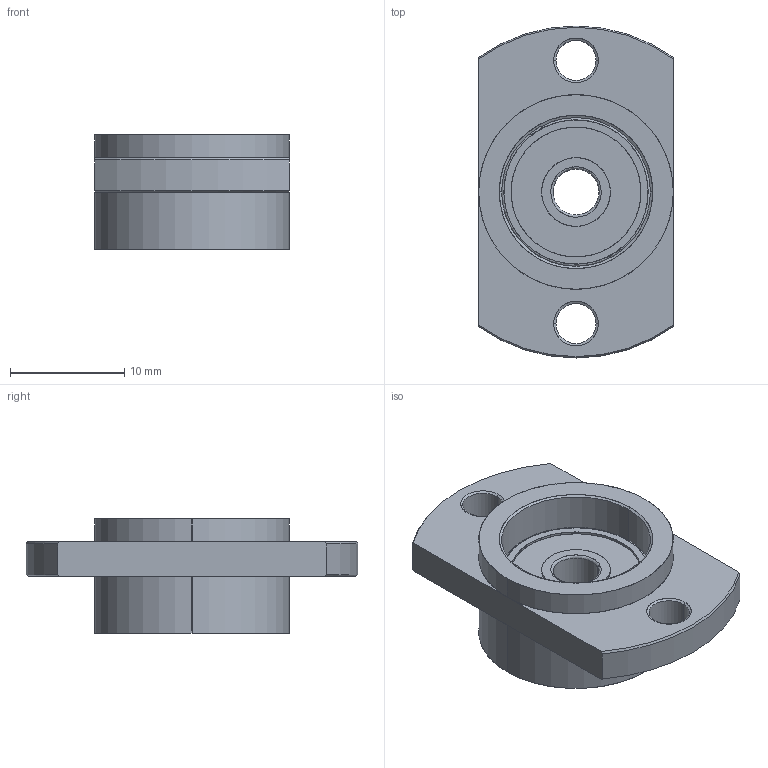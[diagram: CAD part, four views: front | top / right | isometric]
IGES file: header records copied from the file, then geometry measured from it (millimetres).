
Start section: SolidWorks IGES file using analytic representation for surfaces
Global section: file name: C:\Users\watanabe\Desktop\MSU-5\MSU5GS.IGS; native system: SolidWorks 2010; preprocessor: SolidWorks 2010; author: watanabe; date: 120613.103321; units: millimetre
Bounding box: 17 x 29 x 10 mm (x, y, z)
Surface area: 2223.7 mm2 (no closed solid volume)
Topology: 0 solids, 0 shells, 62 faces, 956 edges, 956 vertices
Faces by surface type: revolution 40, bspline 22
